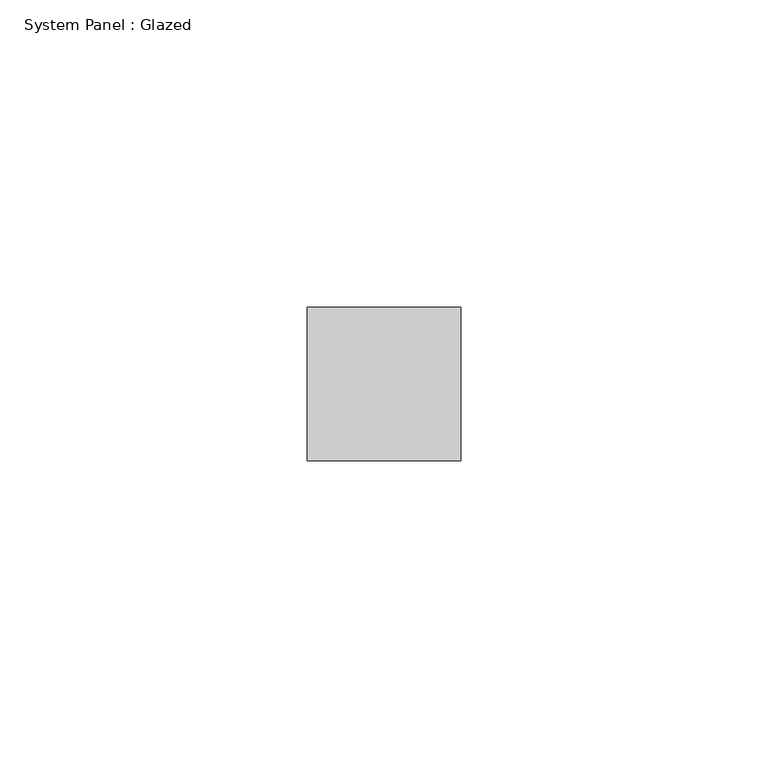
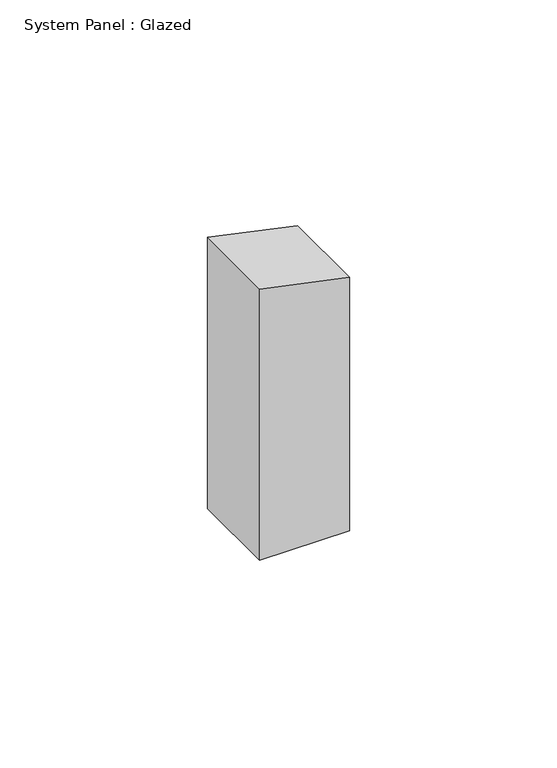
"""IFC4 building model written with IfcOpenShell, lengths in millimetres: plate geometry, System Panel : Glazed."""

from ifc_helpers import new_model, si_unit, frame, origin, place, context, project, spatial, polyline, outline, extrude, source, transform, mapped, element, save


def system_panel_glazed_fcf5a203(model_context):
    return source(origin(), model_context, "Body", "SweptSolid", [
        extrude(outline(polyline([(0.0, -12.5), (0.0, 12.5), (74.3947966, 12.5), (79.7087106, -12.5), (0.0, -12.5)])), frame((0.0, 24.5, 0.0), z_axis=(0.0, 1.0, 0.0), x_axis=(0.0, 0.0, 1.0)), (0.0, 0.0, 1.0), 25.0),
    ])


if __name__ == "__main__":
    model = new_model("IFC4")
    model_context = context("Model", 3, world=origin())
    ifc_project = project(units=[si_unit("LENGTHUNIT", "METRE", prefix="MILLI")], contexts=[model_context])
    site = spatial("IfcSite", under=ifc_project)
    building = spatial("IfcBuilding", under=site)
    placement = place(None, origin())
    system_panel_glazed_shape = system_panel_glazed_fcf5a203(model_context)
    element("IfcPlate", 1, ObjectType="System Panel : Glazed", at=placement, inside=building, context=model_context, shape_type="MappedRepresentation", body=[
        mapped(system_panel_glazed_shape, transform((0.0, 0.0, 0.0), x_axis=(1.0, 0.0, 0.0), y_axis=(0.0, 1.0, 0.0), z_axis=(0.0, 0.0, 1.0))),
    ])
    save(model, "model.ifc")
